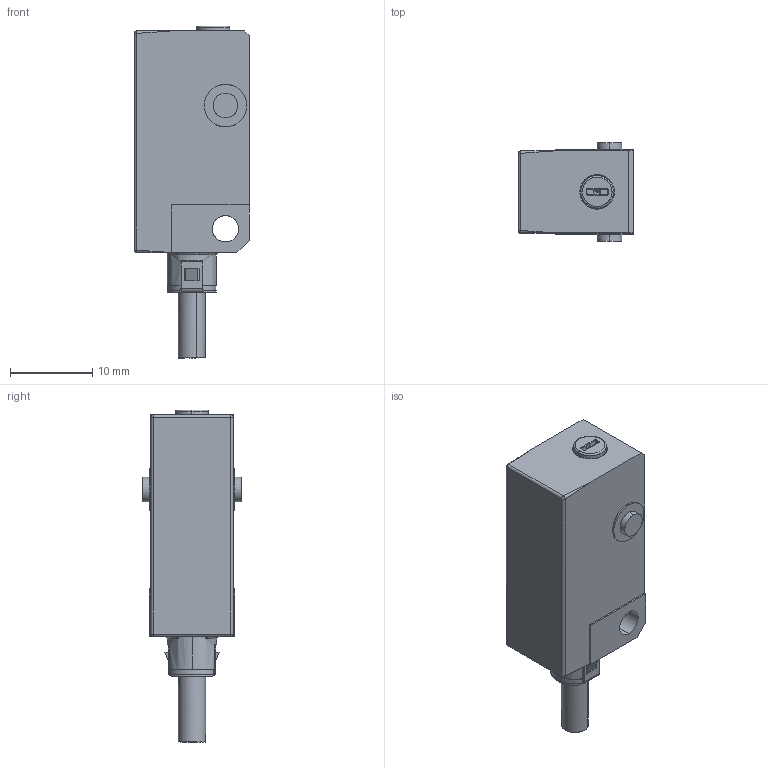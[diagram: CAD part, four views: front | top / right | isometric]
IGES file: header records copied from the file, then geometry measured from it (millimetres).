
Start section: Comment
Global section: file name: FHDK 10.igs; native system:  By Spatial Corp.; preprocessor: XPlus GENERIC/IGES 3.0; author: Author; organization: Title; date: 20060329.085933; units: inch
Bounding box: 14.05 x 12 x 40.45 mm (x, y, z)
Surface area: 1897.9 mm2 (no closed solid volume)
Topology: 0 solids, 0 shells, 157 faces, 772 edges, 764 vertices
Faces by surface type: bspline 157
